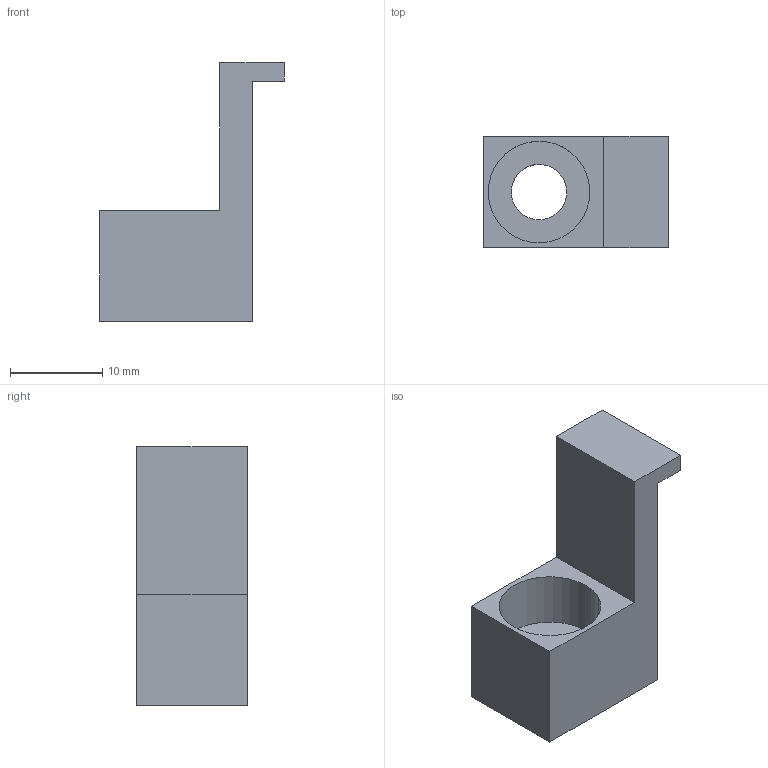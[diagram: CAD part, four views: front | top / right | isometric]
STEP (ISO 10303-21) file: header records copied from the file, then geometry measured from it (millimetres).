
FILE_DESCRIPTION(('CATIA V5 STEP Exchange','CAx-IF Rec.Pracs.--- Model Styling and Organization---1.5--- 2016-08-15','CAx-IF Rec.Pracs.---Supplemental Geometry---1.0---2011-11-01','CAx-IF Rec.Pracs.--- Composite Materials ---1.1---2010-07-15','CAx-IF Rec.Pracs.---External References---2.1---2005-01-19'),'2;1');
FILE_NAME('E:\WAT\Sprezarka\122_00_00_Tlocznik2\Tlocznik2_KPL\Tlocznik2_stp\122_01_06_Blokada.stp','2023-08-01T08:40:09+00:00',('none'),('none'),'CATIA Version 5-6 Release 2022 SP3','CATIA V5 STEP AP214 v2','none');
FILE_SCHEMA(('AUTOMOTIVE_DESIGN { 1 0 10303 214 1 1 1 1 }'));
Length unit declared in the file: millimetre
Products named in the file (1): 122_01_06_Blokada
Bounding box: 20 x 12 x 28 mm (x, y, z)
Volume: 2392.2 mm3; surface area: 1937.9 mm2
Topology: 1 solids, 1 shells, 15 faces, 36 edges, 24 vertices
Faces by surface type: plane 11, cylinder 4
Entity records: 467 total; most frequent: CARTESIAN_POINT 74, ORIENTED_EDGE 72, DIRECTION 62, EDGE_CURVE 36, VECTOR 28, LINE 28, VERTEX_POINT 24, AXIS2_PLACEMENT_3D 22
